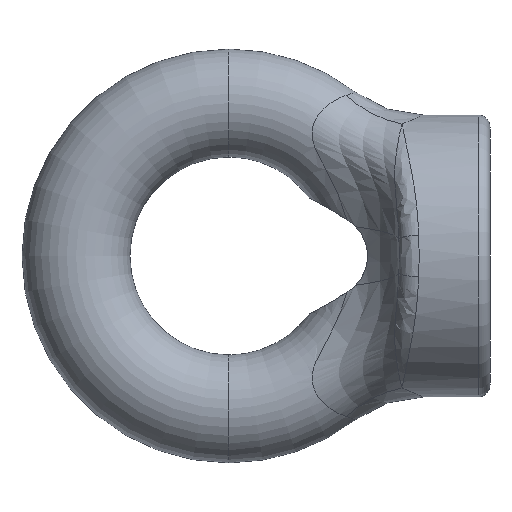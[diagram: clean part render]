
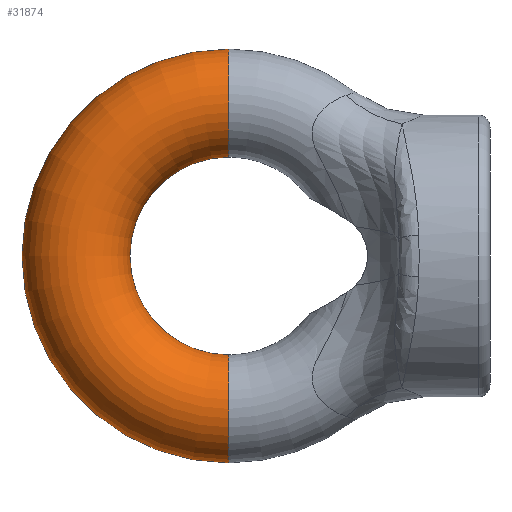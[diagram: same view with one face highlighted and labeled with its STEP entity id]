
A CAD part, front view. The second image highlights one B-rep face of the part: STEP entity #31874.
In plain terms, the highlighted toroidal (fillet/blend) face has major radius 38.25 mm and minor radius 13.5 mm.
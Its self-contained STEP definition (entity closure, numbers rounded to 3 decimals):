
#6525 = CIRCLE ( 'NONE', #6583, 13.5 ) ;
#6580 = DIRECTION ( 'NONE',  ( 0., 0., 1. ) ) ;
#6581 = DIRECTION ( 'NONE',  ( -1., 0., 0. ) ) ;
#6582 = CARTESIAN_POINT ( 'NONE',  ( 0., 0., 38.25 ) ) ;
#6583 = AXIS2_PLACEMENT_3D ( 'NONE', #6582, #6581, #6580 ) ;
#8588 = CIRCLE ( 'NONE', #8623, 13.5 ) ;
#8613 = DIRECTION ( 'NONE',  ( 0., 0., 1. ) ) ;
#8614 = DIRECTION ( 'NONE',  ( 0., 1., 0. ) ) ;
#8615 = CARTESIAN_POINT ( 'NONE',  ( 0., 0., 0. ) ) ;
#8616 = AXIS2_PLACEMENT_3D ( 'NONE', #8615, #8614, #8613 ) ;
#8618 = TOROIDAL_SURFACE ( 'NONE', #8616, 38.25, 13.5 ) ;
#8619 = FACE_OUTER_BOUND ( 'NONE', #31875, .T. ) ;
#8620 = DIRECTION ( 'NONE',  ( 0., 0., -1. ) ) ;
#8621 = DIRECTION ( 'NONE',  ( 1., 0., 0. ) ) ;
#8622 = CARTESIAN_POINT ( 'NONE',  ( 0., 0., -38.25 ) ) ;
#8623 = AXIS2_PLACEMENT_3D ( 'NONE', #8622, #8621, #8620 ) ;
#28392 = CARTESIAN_POINT ( 'NONE',  ( 0., 0., 51.75 ) ) ;
#28456 = CARTESIAN_POINT ( 'NONE',  ( 0., 0., 24.75 ) ) ;
#29202 = DIRECTION ( 'NONE',  ( 0., 0., 1. ) ) ;
#29203 = DIRECTION ( 'NONE',  ( 0., 1., 0. ) ) ;
#29204 = CARTESIAN_POINT ( 'NONE',  ( 0., 0., 0. ) ) ;
#29205 = AXIS2_PLACEMENT_3D ( 'NONE', #29204, #29203, #29202 ) ;
#29206 = CIRCLE ( 'NONE', #29205, 51.75 ) ;
#29267 = CARTESIAN_POINT ( 'NONE',  ( 0., 0., -24.75 ) ) ;
#29268 = CARTESIAN_POINT ( 'NONE',  ( 0., 0., -51.75 ) ) ;
#29428 = DIRECTION ( 'NONE',  ( 0., 0., 1. ) ) ;
#29429 = DIRECTION ( 'NONE',  ( 0., 1., 0. ) ) ;
#29430 = AXIS2_PLACEMENT_3D ( 'NONE', #29436, #29429, #29428 ) ;
#29436 = CARTESIAN_POINT ( 'NONE',  ( 0., 0., 0. ) ) ;
#29438 = CIRCLE ( 'NONE', #29430, 24.75 ) ;
#31873 = EDGE_CURVE ( 'NONE', #33336, #33335, #8588, .T. ) ;
#31874 = ADVANCED_FACE ( 'NONE', ( #8619 ), #8618, .T. ) ;
#31875 = EDGE_LOOP ( 'NONE', ( #31876, #31877, #31878, #31892 ) ) ;
#31876 = ORIENTED_EDGE ( 'NONE', *, *, #33325, .F. ) ;
#31877 = ORIENTED_EDGE ( 'NONE', *, *, #31873, .F. ) ;
#31878 = ORIENTED_EDGE ( 'NONE', *, *, #33391, .T. ) ;
#31892 = ORIENTED_EDGE ( 'NONE', *, *, #31895, .T. ) ;
#31895 = EDGE_CURVE ( 'NONE', #33094, #33027, #6525, .T. ) ;
#33027 = VERTEX_POINT ( 'NONE', #28392 ) ;
#33094 = VERTEX_POINT ( 'NONE', #28456 ) ;
#33325 = EDGE_CURVE ( 'NONE', #33335, #33027, #29206, .T. ) ;
#33335 = VERTEX_POINT ( 'NONE', #29268 ) ;
#33336 = VERTEX_POINT ( 'NONE', #29267 ) ;
#33391 = EDGE_CURVE ( 'NONE', #33336, #33094, #29438, .T. ) ;
